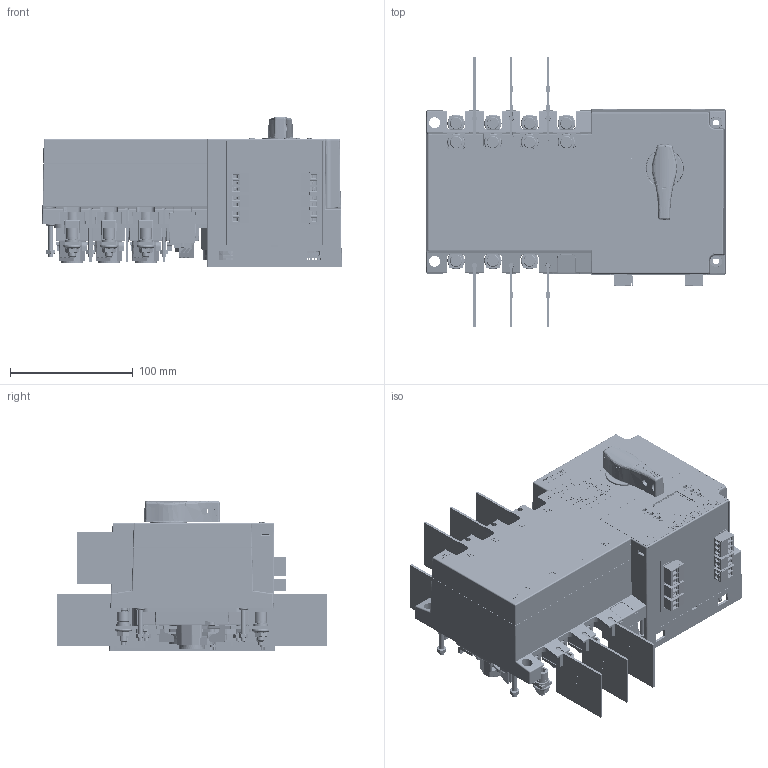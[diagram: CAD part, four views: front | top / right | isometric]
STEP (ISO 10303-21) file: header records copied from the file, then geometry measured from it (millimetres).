
FILE_DESCRIPTION (( 'STEP AP214' ), '1' );
FILE_NAME ('NDQ2A-125珘儒倰3P.STEP', '2021-08-26T06:03:59', ( 'User' ), ( 'China' ), 'SwSTEP 2.0', 'SolidWorks 2021', '' );
FILE_SCHEMA (( 'AUTOMOTIVE_DESIGN' ));
Length unit declared in the file: millimetre
Products named in the file (143): 粟銅蛌璃; 粒欴啣蚾饜; 梓齪珘儒; 蛌攫N; 125雄揖芛; 2EDG-2P脣芛裔; 儂凳囀盓殤; 翋啣; 都蚚萇埭揖芛; 2EDG-3P眻褐脣釱; 掘蚚揣夔儂凳; NDQ2A-125珘儒倰3P; M6鞠褒楊擘醱蹟譫_GB_HEXAGON_TYPE12 M6-N; 萇埭啣; M4X28三组和螺钉; 忒梟; 埴攫穩隊; 悵玸佪郪; 萇儂; 粟銅絳翐; JQX-115F; 葡裔啣; 常用开关压板组件; 2EDG-2P眻褐脣釱; 珘儒梓齪; M2.5X8_GB_CROSS_SCREWS_TYPE1 M2.5X10-10  H type-N; 羲壽醱裔1; 粟菜4_GB_FASTENER_WASHER_SSWL 4; 儂凳菁釱3; 悵玸佪裔; 傻粣; 蛹婥揖芛; 珘儒珆尨ㄗ謎陑ㄘ; VH3.96-2P-90僅; M6-16囀鞠褒郪磁蹟隊; 掘蚚儂凳褲极; 諷秶ん珘儒; 都蚚羲壽裔啣2; 2EDG-3P脣芛褲; 峚雄羲壽6_2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
Assembly tree (353 placements, depth 6):
  NDQ2A-125珘儒倰3P
    都蚚菁釱
    常用进线触头组件  x4
      掘蚚萇埭揖芛
      鏢說掑え
      M6鞠褒楊擘醱蹟譫_GB_HEXAGON_TYPE12 M6-N
      GB6170 M3_GB_FASTENER_NUT_SNAB1 M3-N
    常用出线触头组件  x3
      蛹婥揖芛
      M6-16囀鞠褒郪磁蹟隊
        6mm粟菜_GB_FASTENER_WASHER_SW 6
        6mm平垫_GB_FASTENER_WASHER_SMWC 6
        M6鞠褒楊擘醱蹟譫_GB_HEXAGON_TYPE12 M6-N
      鏢說掑え
      M6鞠褒楊擘醱蹟譫_GB_HEXAGON_TYPE12 M6-N
      hex nuts, style 1-grades ab gb_GB_FASTENER_NUT_SNAB1 M4-N
    都蚚羲壽裔啣2
    125雄揖芛  x10
      125雄揖芛盓殤1
      125揖芛粟銅盓殤
      125蛌璃1
      125雄揖芛
      揖芛揤銅
    都蚚揣夔儂凳
      儂凳囀盓殤
      粟銅絳翐  x2
      儂凳揤坫粟銅  x2
      粟銅蛌璃
      儂凳俋盓殤
      傻粣  x2
      酗粣  x2
      都蚚儂凳褲极
      揣夔儂凳芧謫
        芧謫3
        689Z 粣創_JIS B 1512-1 - 289 - B,14,DE,AC,14_68
        芧謫芢啣
        芧謫揤銅  x2
    蛌攫N
      蛌諉埴攫_1  x2
      埴攫穩隊  x2
      埴攫酗穩隊  x2
      羞諳蛌啣
    蟀裝  x4
    常用开关压板组件
      羲壽揤啣
      峚雄羲壽6_2  x4
      M3X6蹟隊_GB_CROSS_SCREWS_TYPE135 M3X6-N  x4
      M2.5X8_GB_CROSS_SCREWS_TYPE1 M2.5X10-10  H type-N  x8
    峚雄階啣  x2
    掘蚚羲壽菁釱1
    备用出线触头组件  x3
      噙揖芛
      鏢說掑え
    备用进线触头组件  x4
      都蚚萇埭揖芛
      M6-16囀鞠褒郪磁蹟隊
        6mm粟菜_GB_FASTENER_WASHER_SW 6
        6mm平垫_GB_FASTENER_WASHER_SMWC 6
        M6鞠褒楊擘醱蹟譫_GB_HEXAGON_TYPE12 M6-N
      鏢說掑え
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Bounding box: 244.39 x 220 x 122.7 mm (x, y, z)
Volume: 1279947.2 mm3; surface area: 1061985.5 mm2
Topology: 524 solids, 529 shells, 37945 faces, 100190 edges, 64324 vertices
Faces by surface type: plane 22637, cylinder 9028, bspline 3287, cone 1785, torus 655, sphere 553
Entity records: 1077799 total; most frequent: CARTESIAN_POINT 396815, ORIENTED_EDGE 144542, DIRECTION 116909, EDGE_CURVE 72271, VECTOR 49269, LINE 49269, VERTEX_POINT 47100, AXIS2_PLACEMENT_3D 33820
